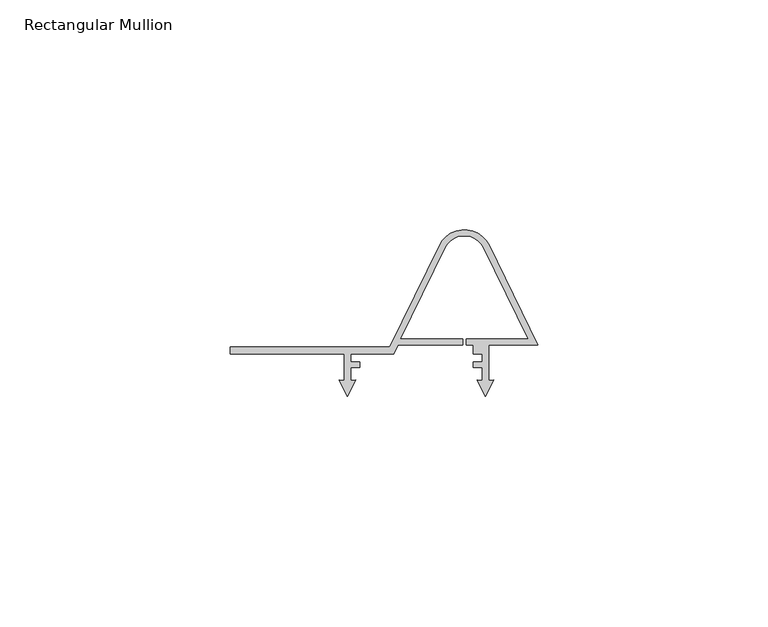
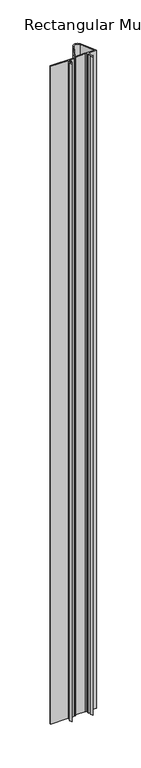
"""IFC4 building model written with IfcOpenShell, lengths in millimetres: member geometry, Rectangular Mullion : Renson_Linarte_LA-CO-01."""

from ifc_helpers import new_model, si_unit, point, frame, frame_2d, origin, place, context, project, spatial, polyline, circle_curve, trimmed, segment, composite_curve, outline, extrude, source, transform, mapped, element, save


def rectangular_mullion_8f83e6e3(model_context):
    return source(origin(), model_context, "Body", "SweptSolid", [
        extrude(outline(composite_curve([segment(polyline([(-41.4001673, 25.0), (-43.2159039, 28.5635875), (-42.1001682, 28.4659733), (-42.1001682, 34.2), (-66.9001673, 34.2), (-66.9001673, 35.6999997), (-32.1777013, 35.6999997), (-21.3840685, 57.8302268)]), True, "CONTINUOUS"), segment(trimmed(circle_curve(frame_2d((-15.9913042, 55.2)), 6.0), [point((-21.3840685, 57.8302268))], [point((-10.5985399, 57.8302269))], False, "CARTESIAN"), True, "CONTINUOUS"), segment(polyline([(-10.5985399, 57.8302269), (0.0, 36.0999998), (-10.7001672, 36.0999998), (-10.7001672, 28.4659732), (-9.5844307, 28.5635874), (-11.4001673, 25.0), (-13.2159038, 28.5635874), (-12.1001674, 28.4659732), (-12.1001674, 31.1999999), (-14.0924315, 31.1999999), (-14.0924315, 32.3999999), (-12.1001674, 32.3999999), (-12.1001674, 34.1999999), (-14.0924315, 34.1999999), (-14.0924315, 36.0999998), (-15.6084615, 36.0999998), (-15.6084615, 37.3999998), (-2.0804349, 37.3999998), (-11.7669722, 57.2603444)]), True, "CONTINUOUS"), segment(trimmed(circle_curve(frame_2d((-15.9913042, 55.2)), 4.7), [point((-11.7669722, 57.2603444))], [point((-20.2156362, 57.2603444))], True, "CARTESIAN"), True, "CONTINUOUS"), segment(polyline([(-20.2156362, 57.2603444), (-29.9021735, 37.3999998), (-16.3741469, 37.3999998), (-16.3741469, 36.0999998), (-30.3239483, 36.0999998), (-31.2920456, 34.2), (-40.700168, 34.2), (-40.700168, 32.4), (-38.7079043, 32.4), (-38.7079043, 31.2), (-40.7001684, 31.2), (-40.7001684, 28.465973), (-39.5844306, 28.5635874), (-41.4001673, 25.0)]), True, "CONTINUOUS")], self_intersect=False)), frame((0.0, 0.0, -1000.0), z_axis=(0.0, 0.0, 1.0), x_axis=(1.0, 0.0, 0.0)), (0.0, 0.0, 1.0), 1000.0),
    ])


if __name__ == "__main__":
    model = new_model("IFC4")
    model_context = context("Model", 3, world=origin())
    ifc_project = project(units=[si_unit("LENGTHUNIT", "METRE", prefix="MILLI")], contexts=[model_context])
    site = spatial("IfcSite", under=ifc_project)
    building = spatial("IfcBuilding", under=site)
    placement = place(None, origin())
    rectangular_mullion_shape = rectangular_mullion_8f83e6e3(model_context)
    element("IfcMember", 1, ObjectType="Rectangular Mullion : Renson_Linarte_LA-CO-01", at=placement, inside=building, context=model_context, shape_type="MappedRepresentation", body=[
        mapped(rectangular_mullion_shape, transform((0.0, 0.0, 0.0), x_axis=(1.0, 0.0, 0.0), y_axis=(0.0, 1.0, 0.0), z_axis=(0.0, 0.0, 1.0))),
    ])
    save(model, "model.ifc")
